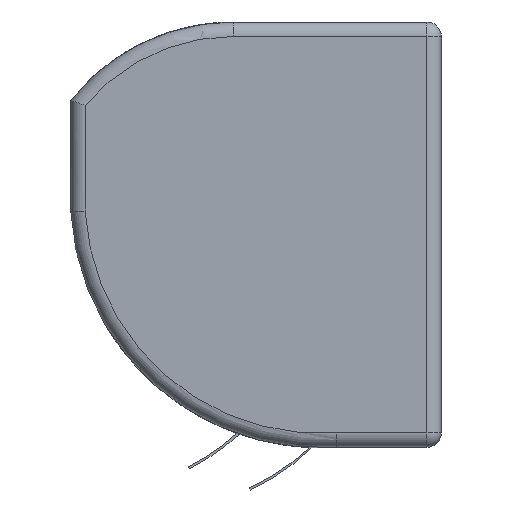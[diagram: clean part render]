
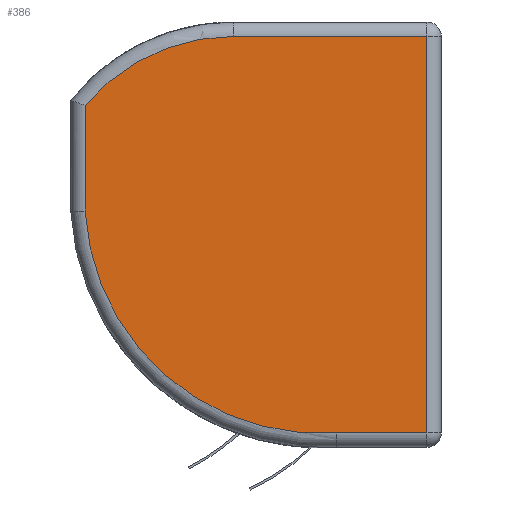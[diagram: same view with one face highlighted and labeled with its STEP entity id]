
A CAD part, left-side view. The second image highlights one B-rep face of the part: STEP entity #386.
In plain terms, the highlighted planar face has unit normal (-1, 0, 0).
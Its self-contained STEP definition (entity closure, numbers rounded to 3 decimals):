
#128 = VERTEX_POINT('',#129);
#129 = CARTESIAN_POINT('',(-400.,10.,285.));
#136 = EDGE_CURVE('',#128,#137,#139,.T.);
#137 = VERTEX_POINT('',#138);
#138 = CARTESIAN_POINT('',(-400.,10.,10.));
#139 = LINE('',#140,#141);
#140 = CARTESIAN_POINT('',(-400.,10.,295.));
#141 = VECTOR('',#142,1.);
#142 = DIRECTION('',(0.,0.,-1.));
#386 = ADVANCED_FACE('',(#387),#430,.T.);
#387 = FACE_BOUND('',#388,.T.);
#388 = EDGE_LOOP('',(#389,#397,#398,#406,#415,#423));
#389 = ORIENTED_EDGE('',*,*,#390,.F.);
#390 = EDGE_CURVE('',#137,#391,#393,.T.);
#391 = VERTEX_POINT('',#392);
#392 = CARTESIAN_POINT('',(-400.,72.433,10.));
#393 = LINE('',#394,#395);
#394 = CARTESIAN_POINT('',(-400.,0.,10.));
#395 = VECTOR('',#396,1.);
#396 = DIRECTION('',(0.,1.,0.));
#397 = ORIENTED_EDGE('',*,*,#136,.F.);
#398 = ORIENTED_EDGE('',*,*,#399,.F.);
#399 = EDGE_CURVE('',#400,#128,#402,.T.);
#400 = VERTEX_POINT('',#401);
#401 = CARTESIAN_POINT('',(-400.,144.183,285.));
#402 = LINE('',#403,#404);
#403 = CARTESIAN_POINT('',(-400.,144.183,285.));
#404 = VECTOR('',#405,1.);
#405 = DIRECTION('',(0.,-1.,-0.));
#406 = ORIENTED_EDGE('',*,*,#407,.F.);
#407 = EDGE_CURVE('',#408,#400,#410,.T.);
#408 = VERTEX_POINT('',#409);
#409 = CARTESIAN_POINT('',(-400.,247.,237.126));
#410 = CIRCLE('',#411,134.346);
#411 = AXIS2_PLACEMENT_3D('',#412,#413,#414);
#412 = CARTESIAN_POINT('',(-400.,144.183,150.654));
#413 = DIRECTION('',(1.,0.,0.));
#414 = DIRECTION('',(0.,0.782,0.624));
#415 = ORIENTED_EDGE('',*,*,#416,.F.);
#416 = EDGE_CURVE('',#417,#408,#419,.T.);
#417 = VERTEX_POINT('',#418);
#418 = CARTESIAN_POINT('',(-400.,247.016,163.888));
#419 = LINE('',#420,#421);
#420 = CARTESIAN_POINT('',(-400.,247.,163.326));
#421 = VECTOR('',#422,1.);
#422 = DIRECTION('',(0.,0.,1.));
#423 = ORIENTED_EDGE('',*,*,#424,.F.);
#424 = EDGE_CURVE('',#391,#417,#425,.T.);
#425 = CIRCLE('',#426,163.443);
#426 = AXIS2_PLACEMENT_3D('',#427,#428,#429);
#427 = CARTESIAN_POINT('',(-400.,83.83,173.069));
#428 = DIRECTION('',(1.,0.,0.));
#429 = DIRECTION('',(0.,-0.066,
    -0.998));
#430 = PLANE('',#431);
#431 = AXIS2_PLACEMENT_3D('',#432,#433,#434);
#432 = CARTESIAN_POINT('',(-400.,110.541,154.912));
#433 = DIRECTION('',(-1.,0.,0.));
#434 = DIRECTION('',(0.,0.,1.));
